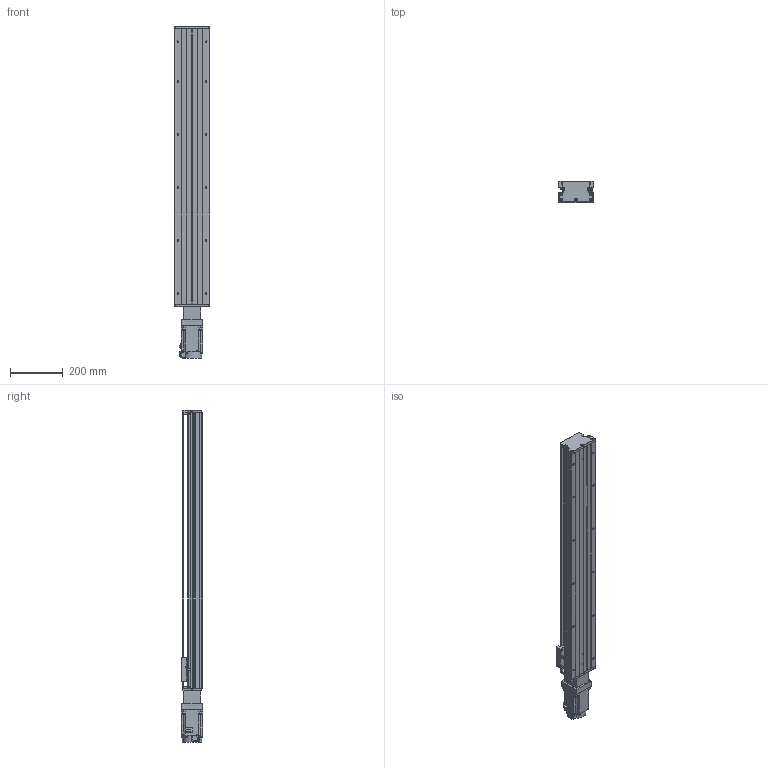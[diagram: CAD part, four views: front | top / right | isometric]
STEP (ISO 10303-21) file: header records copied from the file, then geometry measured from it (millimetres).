
FILE_DESCRIPTION (( 'STEP AP203' ), '1' );
FILE_NAME ('KTH130-900-BC-M75-C4.step', '2023-06-30T04:19:12', ( '微软用户' ), ( '微软中国' ), 'SwSTEP 2.0', 'SolidWorks 2020', '' );
FILE_SCHEMA (( 'CONFIG_CONTROL_DESIGN' ));
Length unit declared in the file: millimetre
Products named in the file (19): GTH14-001_900; CTHA60-017; CTHA86-006-1_M75; KTH130-002_KTH130-002; EE_SX911P_R; CTHA86-013; KTH130-004; CTHA60-016; CTHA86-027-1; KTH130-005; GBT 70.1-M3℅5; hg-kn73j_-s100; GB1155-6X6; GBT77-2000 M3×3; KTH130-900-BC-M75-C4; GBT70.1 M5℅16; す晦芛蹟隊 M3℅5; GBT 70.2-M3¡Á5_M3¡Á6; GBT 70.3-M3℅8
Assembly tree (52 placements, depth 2):
  KTH130-900-BC-M75-C4
    GTH14-001_900
    KTH130-002_KTH130-002
    KTH130-004
    KTH130-005
    GB1155-6X6  x2
    GBT70.1 M5℅16  x10
    GBT 70.2-M3¡Á5_M3¡Á6  x4
    CTHA60-017  x3
    EE_SX911P_R  x3
    CTHA60-016  x2
    GBT 70.1-M3℅5  x6
    GBT77-2000 M3×3  x6
    す晦芛蹟隊 M3℅5  x2
    GBT 70.3-M3℅8  x6
    CTHA86-006-1_M75
    CTHA86-013
    CTHA86-027-1
    hg-kn73j_-s100
Bounding box: 135 x 80.44 x 1253.2 mm (x, y, z)
Volume: 6694987.4 mm3; surface area: 976601.1 mm2
Topology: 55 solids, 55 shells, 2270 faces, 5456 edges, 3399 vertices
Faces by surface type: plane 1244, cylinder 630, cone 280, torus 104, sphere 12
Entity records: 40462 total; most frequent: CARTESIAN_POINT 6681, DIRECTION 6671, ORIENTED_EDGE 6196, EDGE_CURVE 3098, AXIS2_PLACEMENT_3D 2325, LINE 2021, VECTOR 2021, VERTEX_POINT 1971
